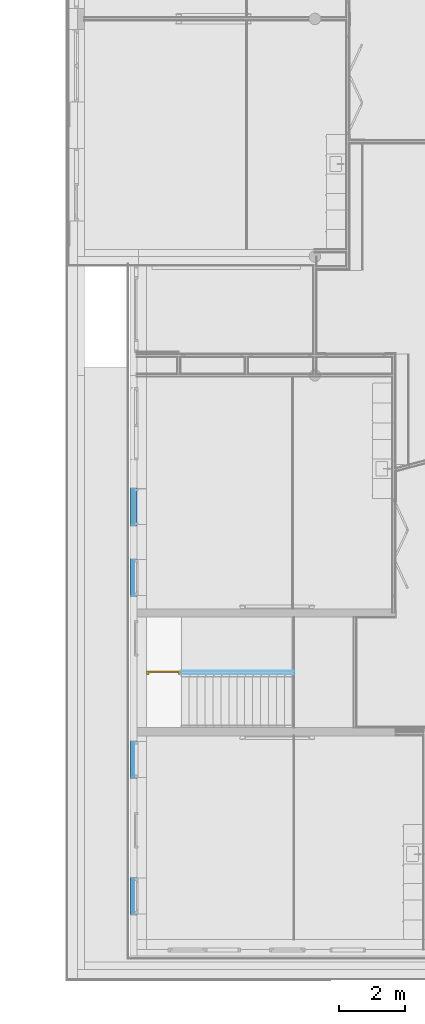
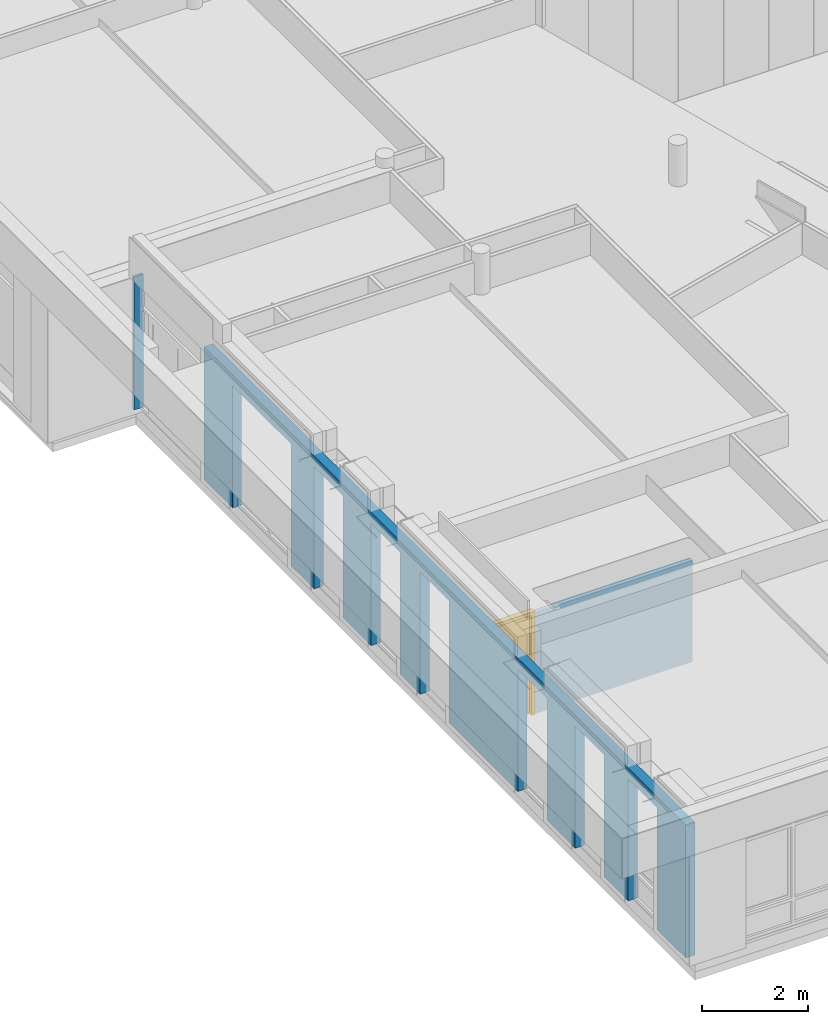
# One storey, part 47 of 167: 1 building element part, 1 door, 13 openings, 2 elements without a shape of their own, plus 3 elements that do not belong to this part.
"""IFC2X3 building model written with IfcOpenShell, lengths in millimetres."""

from ifc_helpers import new_model, entity, si_unit, converted_unit, derived_unit, money_unit, direction, frame, origin_with_axes, place, context, subcontext, project, spatial, faceted_brep, material, type_object, element, fill, aggregate, save


model = new_model("IFC2X3")

# Units and contexts
model_context = context("Model", 3, precision=0.01, world=origin_with_axes(), true_north=direction((0.0, 1.0)))
plan_context = context("Plan", 3, precision=0.01, world=origin_with_axes(), true_north=direction((0.0, 1.0)))
body_context = subcontext(model_context, "Body", "Model", "MODEL_VIEW")
ifc_project = project(units=[si_unit("LENGTHUNIT", "METRE", prefix="MILLI"), si_unit("AREAUNIT", "SQUARE_METRE"), si_unit("VOLUMEUNIT", "CUBIC_METRE"), converted_unit("PLANEANGLEUNIT", "DEGREE", entity("IfcPlaneAngleMeasure", 0.0174532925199), si_unit("PLANEANGLEUNIT", "RADIAN"), dimensions=[0, 0, 0, 0, 0, 0, 0]), si_unit("SOLIDANGLEUNIT", "STERADIAN"), money_unit("EUR"), converted_unit("TIMEUNIT", "Year", entity("IfcTimeMeasure", 31556926.0), si_unit("TIMEUNIT", "SECOND"), dimensions=[0, 0, 1, 0, 0, 0, 0]), si_unit("MASSUNIT", "GRAM", prefix="KILO"), si_unit("THERMODYNAMICTEMPERATUREUNIT", "DEGREE_CELSIUS"), si_unit("LUMINOUSINTENSITYUNIT", "LUMEN"), si_unit("ENERGYUNIT", "JOULE", prefix="MEGA"), derived_unit("THERMALCONDUCTANCEUNIT", [(si_unit("POWERUNIT", "WATT"), 1), (si_unit("LENGTHUNIT", "METRE"), -1), (si_unit("THERMODYNAMICTEMPERATUREUNIT", "KELVIN"), -1)]), derived_unit("SPECIFICHEATCAPACITYUNIT", [(si_unit("ENERGYUNIT", "JOULE"), 1), (si_unit("MASSUNIT", "GRAM", prefix="KILO"), -1), (si_unit("THERMODYNAMICTEMPERATUREUNIT", "KELVIN"), -1)]), derived_unit("MASSDENSITYUNIT", [(si_unit("MASSUNIT", "GRAM", prefix="KILO"), 1), (si_unit("VOLUMEUNIT", "CUBIC_METRE"), -1)])], contexts=[model_context, plan_context])

# Site, building, storey
site_placement = place(None, origin_with_axes())
site = spatial("IfcSite", under=ifc_project, at=site_placement, Name="Site", CompositionType="ELEMENT")
building_placement = place(site_placement, origin_with_axes())
building = spatial("IfcBuilding", under=site, at=building_placement, Name="Naam gebouw", CompositionType="ELEMENT")
storey_placement = place(building_placement, origin_with_axes())
storey = spatial("IfcBuildingStorey", under=building, at=storey_placement, Name="Begane grond", CompositionType="ELEMENT", Elevation=0.0)

# Door
door_style = type_object("IfcDoorStyle", Name="D1 24", ConstructionType="NOTDEFINED", OperationType="SINGLE_SWING_RIGHT", ParameterTakesPrecedence=False, Sizeable=False)
wall_2_placement = place(storey_placement, frame((1800.0, 8991.1374755, 2.0), z_axis=(0.0, 0.0, 1.0), x_axis=(1.0, 0.0, 0.0)))
opening_13_placement = place(wall_2_placement, frame((817.0, 0.0, -2.0), z_axis=(0.0, 0.0, 1.0), x_axis=(1.0, 0.0, 0.0)))
door_placement = place(opening_13_placement, frame((-517.0, 0.0, 0.0), z_axis=(0.0, 0.0, 1.0), x_axis=(1.0, 0.0, 0.0)))
door = element("IfcDoor", 1, at=door_placement, inside=storey, type_object=door_style, Name="32_Deur_Hi-01s", ObjectType="DOOR", OverallHeight=2367.0, OverallWidth=1034.0, context=body_context, shape_type="Brep", body=[
    faceted_brep([(67.0, 10.0, 0.0), (67.0, 10.0, 2300.0), (67.0, -64.0, 2300.0), (67.0, -64.0, 0.0), (42.0, 10.0, 2300.0), (42.0, 10.0, 0.0), (42.0, 50.0, 2300.0), (0.0, 50.0, 2300.0), (0.0, -64.0, 2300.0), (0.0, -64.0, 0.0), (0.0, 50.0, 0.0), (42.0, 50.0, 0.0)], [[[0, 1, 2, 3]], [[4, 1, 0, 5]], [[4, 6, 7, 8, 2, 1]], [[3, 2, 8, 9]], [[5, 0, 3, 9, 10, 11]], [[6, 4, 5, 11]], [[6, 11, 10, 7]], [[10, 9, 8, 7]]]),
    faceted_brep([(992.0, 10.0, 2300.0), (967.0, 10.0, 2300.0), (967.0, -64.0, 2300.0), (1034.0, -64.0, 2300.0), (1034.0, 50.0, 2300.0), (992.0, 50.0, 2300.0), (992.0, 10.0, 0.0), (967.0, 10.0, 0.0), (967.0, -64.0, 0.0), (1034.0, -64.0, 0.0), (1034.0, 50.0, 0.0), (992.0, 50.0, 0.0)], [[[0, 1, 2, 3, 4, 5]], [[1, 0, 6, 7]], [[1, 7, 8, 2]], [[3, 2, 8, 9]], [[4, 3, 9, 10]], [[11, 5, 4, 10]], [[0, 5, 11, 6]], [[6, 11, 10, 9, 8, 7]]]),
    faceted_brep([(42.0, 50.0, 2325.0), (42.0, 50.0, 2300.0), (0.0, 50.0, 2300.0), (0.0, 50.0, 2367.0), (1034.0, 50.0, 2367.0), (1034.0, 50.0, 2300.0), (992.0, 50.0, 2300.0), (992.0, 50.0, 2325.0), (42.0, 10.0, 2325.0), (42.0, 10.0, 2300.0), (67.0, 10.0, 2300.0), (67.0, -64.0, 2300.0), (0.0, -64.0, 2300.0), (0.0, -64.0, 2367.0), (1034.0, -64.0, 2367.0), (1034.0, -64.0, 2300.0), (992.0, 10.0, 2300.0), (967.0, -64.0, 2300.0), (967.0, 10.0, 2300.0), (992.0, 10.0, 2325.0)], [[[0, 1, 2, 3, 4, 5, 6, 7]], [[1, 0, 8, 9]], [[9, 10, 11, 12, 2, 1]], [[2, 12, 13, 3]], [[3, 13, 14, 4]], [[4, 14, 15, 5]], [[16, 6, 5, 15, 17, 18]], [[7, 6, 16, 19]], [[0, 7, 19, 8]], [[16, 18, 10, 9, 8, 19]], [[10, 18, 17, 11]], [[17, 15, 14, 13, 12, 11]]]),
    faceted_brep([(992.0, 50.0, 0.0), (992.0, 10.0, 0.0), (42.0, 10.0, 0.0), (42.0, 50.0, 0.0), (992.0, 50.0, 2325.0), (992.0, 10.0, 2325.0), (42.0, 10.0, 2325.0), (42.0, 50.0, 2325.0)], [[[0, 1, 2, 3]], [[4, 5, 1, 0]], [[1, 5, 6, 2]], [[3, 2, 6, 7]], [[0, 3, 7, 4]], [[7, 6, 5, 4]]]),
])

# Wall, openings, building element part
wall_type_1 = type_object("IfcWallType", Name="_TenW_21_Spouwmuur ht-kz-300- RC 4,7 574", PredefinedType="NOTDEFINED")
wall_1_placement = place(storey_placement, frame((1800.0, 21380.0, 0.0), z_axis=(0.0, 0.0, 1.0), x_axis=(0.0, -1.0, 0.0)))
wall_1 = element("IfcWall", 2, at=wall_1_placement, inside=storey, type_object=wall_type_1, Name="21_Wand_Wand-x")
opening_1_placement = place(wall_1_placement, frame((9507.72528689, 0.0, 0.0), z_axis=(0.0, 0.0, 1.0), x_axis=(1.0, 0.0, 0.0)))
element("IfcOpeningElement", 3, at=opening_1_placement, cuts=wall_1, Name="31_Raam_He-12s", context=body_context, shape_type="Brep", body=[
    faceted_brep([(-542.0, -74.0, 0.0), (-542.0, -74.0, 2800.0), (-542.0, 874.0, 2800.0), (-542.0, 874.0, 0.0), (542.0, -74.0, 0.0), (542.0, -74.0, 2800.0), (542.0, 874.0, 2800.0), (542.0, 874.0, 0.0)], [[[0, 1, 2, 3]], [[0, 4, 5, 1]], [[1, 5, 6, 2]], [[3, 2, 6, 7]], [[4, 0, 3, 7]], [[5, 4, 7, 6]]]),
    faceted_brep([(-542.0, -74.0, 2800.0), (-542.0, -74.0, 0.0), (-542.0, -848.0, 0.0), (-542.0, -848.0, 2800.0), (542.0, -74.0, 2800.0), (542.0, -74.0, 0.0), (542.0, -848.0, 0.0), (542.0, -848.0, 2800.0)], [[[0, 1, 2, 3]], [[0, 4, 5, 1]], [[1, 5, 6, 2]], [[3, 2, 6, 7]], [[4, 0, 3, 7]], [[5, 4, 7, 6]]]),
])
opening_2_placement = place(wall_1_placement, frame((15022.5652869, 0.0, 0.0), z_axis=(0.0, 0.0, 1.0), x_axis=(1.0, 0.0, 0.0)))
element("IfcOpeningElement", 4, at=opening_2_placement, cuts=wall_1, Name="31_Raam_He-15", context=body_context, shape_type="Brep", body=[
    faceted_brep([(-542.0, -74.0, 0.0), (-542.0, -74.0, 2800.0), (-542.0, 874.0, 2800.0), (-542.0, 874.0, 0.0), (542.0, -74.0, 0.0), (542.0, -74.0, 2800.0), (542.0, 874.0, 2800.0), (542.0, 874.0, 0.0)], [[[0, 1, 2, 3]], [[0, 4, 5, 1]], [[1, 5, 6, 2]], [[3, 2, 6, 7]], [[4, 0, 3, 7]], [[5, 4, 7, 6]]]),
    faceted_brep([(-542.0, -74.0, 2800.0), (-542.0, -74.0, 0.0), (-542.0, -848.0, 0.0), (-542.0, -848.0, 2800.0), (542.0, -74.0, 2800.0), (542.0, -74.0, 0.0), (542.0, -848.0, 0.0), (542.0, -848.0, 2800.0)], [[[0, 1, 2, 3]], [[0, 4, 5, 1]], [[1, 5, 6, 2]], [[3, 2, 6, 7]], [[4, 0, 3, 7]], [[5, 4, 7, 6]]]),
])
opening_3_placement = place(wall_1_placement, frame((19158.6952869, 0.0, 0.0), z_axis=(0.0, 0.0, 1.0), x_axis=(1.0, 0.0, 0.0)))
element("IfcOpeningElement", 5, at=opening_3_placement, cuts=wall_1, Name="31_Raam_He-12s", context=body_context, shape_type="Brep", body=[
    faceted_brep([(-542.0, -74.0, 0.0), (-542.0, -74.0, 2800.0), (-542.0, 874.0, 2800.0), (-542.0, 874.0, 0.0), (542.0, -74.0, 0.0), (542.0, -74.0, 2800.0), (542.0, 874.0, 2800.0), (542.0, 874.0, 0.0)], [[[0, 1, 2, 3]], [[0, 4, 5, 1]], [[1, 5, 6, 2]], [[3, 2, 6, 7]], [[4, 0, 3, 7]], [[5, 4, 7, 6]]]),
    faceted_brep([(-542.0, -74.0, 2800.0), (-542.0, -74.0, 0.0), (-542.0, -848.0, 0.0), (-542.0, -848.0, 2800.0), (542.0, -74.0, 2800.0), (542.0, -74.0, 0.0), (542.0, -848.0, 0.0), (542.0, -848.0, 2800.0)], [[[0, 1, 2, 3]], [[0, 4, 5, 1]], [[1, 5, 6, 2]], [[3, 2, 6, 7]], [[4, 0, 3, 7]], [[5, 4, 7, 6]]]),
])
opening_4_placement = place(wall_1_placement, frame((4850.51528689, 0.0, 0.0), z_axis=(0.0, 0.0, 1.0), x_axis=(1.0, 0.0, 0.0)))
element("IfcOpeningElement", 6, at=opening_4_placement, cuts=wall_1, Name="31_Raam_He-11", context=body_context, shape_type="Brep", body=[
    faceted_brep([(-1095.0, -154.0, 2800.0), (-1095.0, -69.0, 2800.0), (1095.0, -69.0, 2800.0), (1095.0, -154.0, 2800.0), (-1095.0, -154.0, 2885.0), (-1095.0, -69.0, 2885.0), (1095.0, -69.0, 2885.0), (1095.0, -154.0, 2885.0)], [[[0, 1, 2, 3]], [[0, 4, 5, 1]], [[1, 5, 6, 2]], [[3, 2, 6, 7]], [[4, 0, 3, 7]], [[5, 4, 7, 6]]]),
    faceted_brep([(-1095.0, -74.0, 0.0), (-1095.0, -74.0, 2800.0), (-1095.0, 874.0, 2800.0), (-1095.0, 874.0, 0.0), (1095.0, -74.0, 0.0), (1095.0, -74.0, 2800.0), (1095.0, 874.0, 2800.0), (1095.0, 874.0, 0.0)], [[[0, 1, 2, 3]], [[0, 4, 5, 1]], [[1, 5, 6, 2]], [[3, 2, 6, 7]], [[4, 0, 3, 7]], [[5, 4, 7, 6]]]),
    faceted_brep([(-1095.0, -74.0, 2800.0), (-1095.0, -74.0, 0.0), (-1095.0, -848.0, 0.0), (-1095.0, -848.0, 2800.0), (1095.0, -74.0, 2800.0), (1095.0, -74.0, 0.0), (1095.0, -848.0, 0.0), (1095.0, -848.0, 2800.0)], [[[0, 1, 2, 3]], [[0, 4, 5, 1]], [[1, 5, 6, 2]], [[3, 2, 6, 7]], [[4, 0, 3, 7]], [[5, 4, 7, 6]]]),
])
opening_5_placement = place(wall_1_placement, frame((1374.86014344, 0.0, 0.0), z_axis=(0.0, 0.0, 1.0), x_axis=(1.0, 0.0, 0.0)))
element("IfcOpeningElement", 7, at=opening_5_placement, cuts=wall_1, Name="32_Deur_He-04", context=body_context, shape_type="Brep", body=[
    faceted_brep([(-1310.86014344, 874.0, 3050.0), (-1310.86014344, 874.0, 0.0), (-1310.86014344, -74.0, 0.0), (-1310.86014344, -74.0, 3050.0), (1310.86014344, 874.0, 3050.0), (1310.86014344, 874.0, 0.0), (1310.86014344, -74.0, 0.0), (1310.86014344, -74.0, 3050.0)], [[[0, 1, 2, 3]], [[0, 4, 5, 1]], [[1, 5, 6, 2]], [[3, 2, 6, 7]], [[4, 0, 3, 7]], [[5, 4, 7, 6]]]),
    faceted_brep([(-1310.86014344, -848.0, 0.0), (-1310.86014344, -848.0, 3050.0), (-1310.86014344, -74.0, 3050.0), (-1310.86014344, -74.0, 0.0), (1310.86014344, -848.0, 0.0), (1310.86014344, -848.0, 3050.0), (1310.86014344, -74.0, 3050.0), (1310.86014344, -74.0, 0.0)], [[[0, 1, 2, 3]], [[0, 4, 5, 1]], [[1, 5, 6, 2]], [[3, 2, 6, 7]], [[4, 0, 3, 7]], [[5, 4, 7, 6]]]),
])
opening_6_placement = place(wall_1_placement, frame((7363.80528689, 0.0, 0.0), z_axis=(0.0, 0.0, 1.0), x_axis=(1.0, 0.0, 0.0)))
element("IfcOpeningElement", 8, at=opening_6_placement, cuts=wall_1, Name="32_Deur_He-06", context=body_context, shape_type="Brep", body=[
    faceted_brep([(-542.0, 874.0, 2800.0), (-542.0, 874.0, 0.0), (-542.0, -74.0, 0.0), (-542.0, -74.0, 2800.0), (542.0, 874.0, 2800.0), (542.0, 874.0, 0.0), (542.0, -74.0, 0.0), (542.0, -74.0, 2800.0)], [[[0, 1, 2, 3]], [[0, 4, 5, 1]], [[1, 5, 6, 2]], [[3, 2, 6, 7]], [[4, 0, 3, 7]], [[5, 4, 7, 6]]]),
    faceted_brep([(-542.0, -848.0, 0.0), (-542.0, -848.0, 2800.0), (-542.0, -74.0, 2800.0), (-542.0, -74.0, 0.0), (542.0, -848.0, 0.0), (542.0, -848.0, 2800.0), (542.0, -74.0, 2800.0), (542.0, -74.0, 0.0)], [[[0, 1, 2, 3]], [[0, 4, 5, 1]], [[1, 5, 6, 2]], [[3, 2, 6, 7]], [[4, 0, 3, 7]], [[5, 4, 7, 6]]]),
])
opening_7_placement = place(wall_1_placement, frame((11346.7452869, 0.0, 0.0), z_axis=(0.0, 0.0, 1.0), x_axis=(1.0, 0.0, 0.0)))
element("IfcOpeningElement", 9, at=opening_7_placement, cuts=wall_1, Name="32_Deur_He-06", context=body_context, shape_type="Brep", body=[
    faceted_brep([(-542.0, 874.0, 2800.0), (-542.0, 874.0, 0.0), (-542.0, -74.0, 0.0), (-542.0, -74.0, 2800.0), (542.0, 874.0, 2800.0), (542.0, 874.0, 0.0), (542.0, -74.0, 0.0), (542.0, -74.0, 2800.0)], [[[0, 1, 2, 3]], [[0, 4, 5, 1]], [[1, 5, 6, 2]], [[3, 2, 6, 7]], [[4, 0, 3, 7]], [[5, 4, 7, 6]]]),
    faceted_brep([(-542.0, -848.0, 0.0), (-542.0, -848.0, 2800.0), (-542.0, -74.0, 2800.0), (-542.0, -74.0, 0.0), (542.0, -848.0, 0.0), (542.0, -848.0, 2800.0), (542.0, -74.0, 2800.0), (542.0, -74.0, 0.0)], [[[0, 1, 2, 3]], [[0, 4, 5, 1]], [[1, 5, 6, 2]], [[3, 2, 6, 7]], [[4, 0, 3, 7]], [[5, 4, 7, 6]]]),
])
opening_8_placement = place(wall_1_placement, frame((17167.9652869, 0.0, 0.0), z_axis=(0.0, 0.0, 1.0), x_axis=(1.0, 0.0, 0.0)))
element("IfcOpeningElement", 10, at=opening_8_placement, cuts=wall_1, Name="32_Deur_He-06", context=body_context, shape_type="Brep", body=[
    faceted_brep([(-542.0, 874.0, 2800.0), (-542.0, 874.0, 0.0), (-542.0, -74.0, 0.0), (-542.0, -74.0, 2800.0), (542.0, 874.0, 2800.0), (542.0, 874.0, 0.0), (542.0, -74.0, 0.0), (542.0, -74.0, 2800.0)], [[[0, 1, 2, 3]], [[0, 4, 5, 1]], [[1, 5, 6, 2]], [[3, 2, 6, 7]], [[4, 0, 3, 7]], [[5, 4, 7, 6]]]),
    faceted_brep([(-542.0, -848.0, 0.0), (-542.0, -848.0, 2800.0), (-542.0, -74.0, 2800.0), (-542.0, -74.0, 0.0), (542.0, -848.0, 0.0), (542.0, -848.0, 2800.0), (542.0, -74.0, 2800.0), (542.0, -74.0, 0.0)], [[[0, 1, 2, 3]], [[0, 4, 5, 1]], [[1, 5, 6, 2]], [[3, 2, 6, 7]], [[4, 0, 3, 7]], [[5, 4, 7, 6]]]),
])
opening_9_placement = place(wall_1_placement, frame((21380.0, -1800.0, 0.0), z_axis=(0.0, 0.0, 1.0), x_axis=(0.0, 1.0, 0.0)))
element("IfcOpeningElement", 11, at=opening_9_placement, cuts=wall_1, Name="_Lege opening_Doorvoer-x", context=body_context, shape_type="Brep", body=[
    faceted_brep([(1799.99999988, 14563.1947131, 2800.0), (1799.99999988, 14563.1947131, 3050.0), (2674.0, 14563.1947131, 3050.0), (2674.0, 14563.1947131, 2800.0), (1799.99999988, 13475.6747131, 2800.0), (1799.99999988, 13475.6747131, 3050.0), (2674.0, 13475.6747131, 3050.0), (2674.0, 13475.6747131, 2800.0)], [[[0, 1, 2, 3]], [[0, 4, 5, 1]], [[1, 5, 6, 2]], [[3, 2, 6, 7]], [[4, 0, 3, 7]], [[5, 4, 7, 6]]]),
])
opening_10_placement = place(wall_1_placement, frame((21380.0, -1800.0, 0.0), z_axis=(0.0, 0.0, 1.0), x_axis=(0.0, 1.0, 0.0)))
element("IfcOpeningElement", 12, at=opening_10_placement, cuts=wall_1, Name="_Lege opening_Doorvoer-x", context=body_context, shape_type="Brep", body=[
    faceted_brep([(1800.0, 12413.5347131, 2800.0), (1800.0, 12413.5347131, 3050.0), (2674.0, 12413.5347131, 3050.0), (2674.0, 12413.5347131, 2800.0), (1800.0, 11326.0147131, 2800.0), (1800.0, 11326.0147131, 3050.0), (2674.0, 11326.0147131, 3050.0), (2674.0, 11326.0147131, 2800.0)], [[[0, 1, 2, 3]], [[0, 4, 5, 1]], [[1, 5, 6, 2]], [[3, 2, 6, 7]], [[4, 0, 3, 7]], [[5, 4, 7, 6]]]),
])
opening_11_placement = place(wall_1_placement, frame((21380.0, -1800.0, 0.0), z_axis=(0.0, 0.0, 1.0), x_axis=(0.0, 1.0, 0.0)))
element("IfcOpeningElement", 13, at=opening_11_placement, cuts=wall_1, Name="_Lege opening_Doorvoer-x", context=body_context, shape_type="Brep", body=[
    faceted_brep([(1800.0, 2762.56471311, 2800.0), (1800.0, 2762.56471311, 3050.0), (2674.0, 2762.56471311, 3050.0), (2674.0, 2762.56471311, 2800.0), (1800.0, 1675.04471311, 2800.0), (1800.0, 1675.04471311, 3050.0), (2674.0, 1675.04471311, 3050.0), (2674.0, 1675.04471311, 2800.0)], [[[0, 1, 2, 3]], [[0, 4, 5, 1]], [[1, 5, 6, 2]], [[3, 2, 6, 7]], [[4, 0, 3, 7]], [[5, 4, 7, 6]]]),
])
opening_12_placement = place(wall_1_placement, frame((21380.0, -1800.0, 0.0), z_axis=(0.0, 0.0, 1.0), x_axis=(0.0, 1.0, 0.0)))
element("IfcOpeningElement", 14, at=opening_12_placement, cuts=wall_1, Name="_Lege opening_Doorvoer-x", context=body_context, shape_type="Brep", body=[
    faceted_brep([(1800.0, 6898.69471311, 2800.0), (1800.0, 6898.69471311, 3050.0), (2674.0, 6898.69471311, 3050.0), (2674.0, 6898.69471311, 2800.0), (1800.0, 5811.17471311, 2800.0), (1800.0, 5811.17471311, 3050.0), (2674.0, 5811.17471311, 3050.0), (2674.0, 5811.17471311, 2800.0)], [[[0, 1, 2, 3]], [[0, 4, 5, 1]], [[1, 5, 6, 2]], [[3, 2, 6, 7]], [[4, 0, 3, 7]], [[5, 4, 7, 6]]]),
])
ifc_material_1 = material(Name="Isolatie - Steenwol zacht")
building_element_part_1_placement = place(wall_1_placement, origin_with_axes())
building_element_part_1 = element("IfcBuildingElementPart", 15, at=building_element_part_1_placement, material=ifc_material_1, Name="Isolatie - Steenwol zacht", context=body_context, shape_type="Brep", body=[
    faceted_brep([(17709.9652869, 0.0, 0.0), (17709.9652869, 0.0, 2800.0), (16625.9652869, 0.0, 2800.0), (16625.9652869, 0.0, 0.0), (15564.5652869, 0.0, 0.0), (15564.5652869, 0.0, 2800.0), (14480.5652869, 0.0, 2800.0), (14480.5652869, 0.0, 0.0), (11888.7452869, 0.0, 0.0), (11888.7452869, 0.0, 2800.0), (10804.7452869, 0.0, 2800.0), (10804.7452869, 0.0, 0.0), (10049.7252869, 0.0, 0.0), (10049.7252869, 0.0, 2800.0), (8965.72528689, 0.0, 2800.0), (8965.72528689, 0.0, 0.0), (7905.80528689, 0.0, 0.0), (7905.80528689, 0.0, 2800.0), (6821.80528689, 0.0, 2800.0), (6821.80528689, 0.0, 0.0), (5945.51528689, 0.0, 0.0), (5945.51528689, 0.0, 2800.0), (3755.51528689, 0.0, 2800.0), (3755.51528689, 0.0, 0.0), (2685.72028689, 0.0, 0.0), (2685.72028689, 0.0, 3050.0), (20780.0, 0.0, 3050.0), (20780.0, 0.0, 0.0), (19700.6952869, 0.0, 0.0), (19700.6952869, 0.0, 2800.0), (18616.6952869, 0.0, 2800.0), (18616.6952869, 0.0, 0.0), (17709.9652869, -74.0, 0.0), (17709.9652869, -74.0, 2800.0), (16625.9652869, -74.0, 2800.0), (16625.9652869, -74.0, 0.0), (16625.9652869, -200.0, 0.0), (15564.5652869, -200.0, 0.0), (15564.5652869, -74.0, 0.0), (15564.5652869, -74.0, 2800.0), (14480.5652869, -74.0, 2800.0), (14480.5652869, -74.0, 0.0), (11888.7452869, -74.0, 0.0), (14480.5652869, -200.0, 0.0), (11888.7452869, -200.0, 0.0), (11888.7452869, -74.0, 2800.0), (10804.7452869, -74.0, 2800.0), (10804.7452869, -74.0, 0.0), (10804.7452869, -200.0, 0.0), (10049.7252869, -200.0, 0.0), (10049.7252869, -74.0, 0.0), (10049.7252869, -74.0, 2800.0), (8965.72528689, -74.0, 2800.0), (8965.72528689, -74.0, 0.0), (7905.80528689, -74.0, 0.0), (8965.72528689, -200.0, 0.0), (7905.80528689, -200.0, 0.0), (7905.80528689, -74.0, 2800.0), (6821.80528689, -74.0, 2800.0), (6821.80528689, -74.0, 0.0), (6821.80528689, -200.0, 0.0), (5945.51528689, -200.0, 0.0), (5945.51528689, -74.0, 0.0), (5945.51528689, -69.0, 2800.0), (5945.51528689, -74.0, 2800.0), (3755.51528689, -69.0, 2800.0), (3755.51528689, -74.0, 2800.0), (3755.51528689, -74.0, 0.0), (2685.72028689, -74.0, 0.0), (3755.51528689, -200.0, 0.0), (2685.72028689, -200.0, 0.0), (2685.72028689, -74.0, 3050.0), (2685.72028689, -200.0, 3050.0), (20780.0, -200.0, 3050.0), (20780.0, -200.0, 0.0), (19700.6952869, -200.0, 0.0), (19700.6952869, -74.0, 0.0), (19700.6952869, -74.0, 2800.0), (18616.6952869, -74.0, 2800.0), (18616.6952869, -74.0, 0.0), (18616.6952869, -200.0, 0.0), (17709.9652869, -200.0, 0.0), (17709.9652869, -200.0, 2800.0), (16625.9652869, -200.0, 2800.0), (18616.6952869, -200.0, 2800.0), (19700.6952869, -200.0, 2800.0), (3755.51528689, -200.0, 2800.0), (5945.51528689, -200.0, 2800.0), (6821.80528689, -200.0, 2800.0), (7905.80528689, -200.0, 2800.0), (8965.72528689, -200.0, 2800.0), (10049.7252869, -200.0, 2800.0), (10804.7452869, -200.0, 2800.0), (11888.7452869, -200.0, 2800.0), (14480.5652869, -200.0, 2800.0), (15564.5652869, -200.0, 2800.0), (5945.51528689, -154.0, 2800.0), (5945.51528689, -154.0, 2885.0), (5945.51528689, -69.0, 2885.0), (3755.51528689, -69.0, 2885.0), (3755.51528689, -154.0, 2800.0), (3755.51528689, -154.0, 2885.0)], [[[0, 1, 2, 3, 4, 5, 6, 7, 8, 9, 10, 11, 12, 13, 14, 15, 16, 17, 18, 19, 20, 21, 22, 23, 24, 25, 26, 27, 28, 29, 30, 31]], [[1, 0, 32, 33]], [[2, 1, 33, 34]], [[3, 2, 34, 35]], [[3, 35, 36, 37, 38, 4]], [[4, 38, 39, 5]], [[5, 39, 40, 6]], [[6, 40, 41, 7]], [[42, 8, 7, 41, 43, 44]], [[42, 45, 9, 8]], [[45, 46, 10, 9]], [[46, 47, 11, 10]], [[11, 47, 48, 49, 50, 12]], [[51, 13, 12, 50]], [[52, 14, 13, 51]], [[53, 15, 14, 52]], [[54, 16, 15, 53, 55, 56]], [[17, 16, 54, 57]], [[18, 17, 57, 58]], [[19, 18, 58, 59]], [[19, 59, 60, 61, 62, 20]], [[63, 21, 20, 62, 64]], [[63, 65, 22, 21]], [[66, 67, 23, 22, 65]], [[68, 24, 23, 67, 69, 70]], [[24, 68, 71, 25]], [[72, 73, 26, 25, 71]], [[26, 73, 74, 27]], [[27, 74, 75, 76, 28]], [[77, 29, 28, 76]], [[78, 30, 29, 77]], [[79, 31, 30, 78]], [[32, 0, 31, 79, 80, 81]], [[33, 32, 81, 82]], [[34, 33, 82, 83]], [[35, 34, 83, 36]], [[37, 36, 83, 82, 81, 80, 84, 85, 75, 74, 73, 72, 70, 69, 86, 87, 61, 60, 88, 89, 56, 55, 90, 91, 49, 48, 92, 93, 44, 43, 94, 95]], [[38, 37, 95, 39]], [[39, 95, 94, 40]], [[40, 94, 43, 41]], [[44, 93, 45, 42]], [[93, 92, 46, 45]], [[92, 48, 47, 46]], [[91, 51, 50, 49]], [[90, 52, 51, 91]], [[55, 53, 52, 90]], [[57, 54, 56, 89]], [[58, 57, 89, 88]], [[59, 58, 88, 60]], [[64, 62, 61, 87, 96]], [[64, 96, 97, 98, 63]], [[65, 63, 98, 99]], [[100, 86, 69, 67, 66]], [[65, 99, 101, 100, 66]], [[70, 72, 71, 68]], [[85, 77, 76, 75]], [[84, 78, 77, 85]], [[80, 79, 78, 84]], [[100, 96, 87, 86]], [[96, 100, 101, 97]], [[98, 97, 101, 99]]]),
    faceted_brep([(0.0, -200.0, 3050.0), (64.0, -200.0, 3050.0), (64.0, -74.0, 3050.0), (64.0, 0.0, 3050.0), (0.0, 0.0, 3050.0), (0.0, -200.0, 0.0), (64.0, -200.0, 0.0), (64.0, -74.0, 0.0), (64.0, 0.0, 0.0), (0.0, 0.0, 0.0)], [[[0, 1, 2, 3, 4]], [[1, 0, 5, 6]], [[7, 2, 1, 6]], [[8, 3, 2, 7]], [[3, 8, 9, 4]], [[9, 5, 0, 4]], [[5, 9, 8, 7, 6]]]),
])
aggregate(wall_1, [building_element_part_1])

# Wall, opening
wall_type_2 = type_object("IfcWallType", Name="_TenW_22_Metalstud 100 enkel gipsvezelplaat 100", PredefinedType="NOTDEFINED")
wall_2 = element("IfcWall", 16, at=wall_2_placement, inside=storey, type_object=wall_type_2, Name="22_Wand_Wand-x")
opening_13 = element("IfcOpeningElement", 17, at=opening_13_placement, cuts=wall_2, Name="32_Deur_Hi-01s", context=body_context, shape_type="Brep", body=[
    faceted_brep([(517.0, -100.0, 2367.0), (517.0, -100.0, 0.0), (517.0, 200.0, 0.0), (517.0, 200.0, 2367.0), (-517.0, -100.0, 2367.0), (-517.0, -100.0, 0.0), (-517.0, 200.0, 0.0), (-517.0, 200.0, 2367.0)], [[[0, 1, 2, 3]], [[0, 4, 5, 1]], [[1, 5, 6, 2]], [[3, 2, 6, 7]], [[4, 0, 3, 7]], [[5, 4, 7, 6]]]),
])

fill(opening_13, door)

# Building element part
ifc_material_2 = material(Name="Gipsplaat watervast")
building_element_part_2_placement = place(wall_2_placement, origin_with_axes())
building_element_part_2 = element("IfcBuildingElementPart", 18, at=building_element_part_2_placement, material=ifc_material_2, Name="Gipsplaat watervast", context=body_context, shape_type="Brep", body=[
    faceted_brep([(1334.0, 50.0, 0.0), (1334.0, 50.0, 2318.0), (4760.33313693, 50.0, 2318.0), (4760.33313693, 50.0, 0.0), (1334.0, 37.5, 2318.0), (1334.0, 37.5, 0.0), (4760.33313693, 37.5, 2318.0), (4760.33313693, 37.5, 0.0)], [[[0, 1, 2, 3]], [[4, 1, 0, 5]], [[1, 4, 6, 2]], [[7, 3, 2, 6]], [[5, 0, 3, 7]], [[4, 5, 7, 6]]]),
])

building_element_part_3_placement = place(wall_2_placement, origin_with_axes())
building_element_part_3 = element("IfcBuildingElementPart", 19, at=building_element_part_3_placement, material=ifc_material_1, Name="Isolatie - Steenwol zacht", context=body_context, shape_type="Brep", body=[
    faceted_brep([(1334.0, 37.5, 0.0), (1334.0, 37.5, 2318.0), (4760.33313693, 37.5, 2318.0), (4760.33313693, 37.5, 0.0), (1334.0, -37.5, 2318.0), (1334.0, -37.5, 0.0), (4760.33313693, -37.5, 2318.0), (4760.33313693, -37.5, 0.0)], [[[0, 1, 2, 3]], [[4, 1, 0, 5]], [[1, 4, 6, 2]], [[7, 3, 2, 6]], [[5, 0, 3, 7]], [[4, 5, 7, 6]]]),
])

building_element_part_4_placement = place(wall_2_placement, origin_with_axes())
building_element_part_4 = element("IfcBuildingElementPart", 20, at=building_element_part_4_placement, material=ifc_material_2, Name="Gipsplaat watervast", context=body_context, shape_type="Brep", body=[
    faceted_brep([(1334.0, -37.5, 0.0), (1334.0, -37.5, 2318.0), (4760.33313693, -37.5, 2318.0), (4760.33313693, -37.5, 0.0), (1334.0, -50.0, 2318.0), (1334.0, -50.0, 0.0), (4760.33313693, -50.0, 2318.0), (4760.33313693, -50.0, 0.0)], [[[0, 1, 2, 3]], [[4, 1, 0, 5]], [[1, 4, 6, 2]], [[7, 3, 2, 6]], [[5, 0, 3, 7]], [[4, 5, 7, 6]]]),
])

aggregate(wall_2, [building_element_part_2, building_element_part_3, building_element_part_4])

save(model, "model.ifc")
